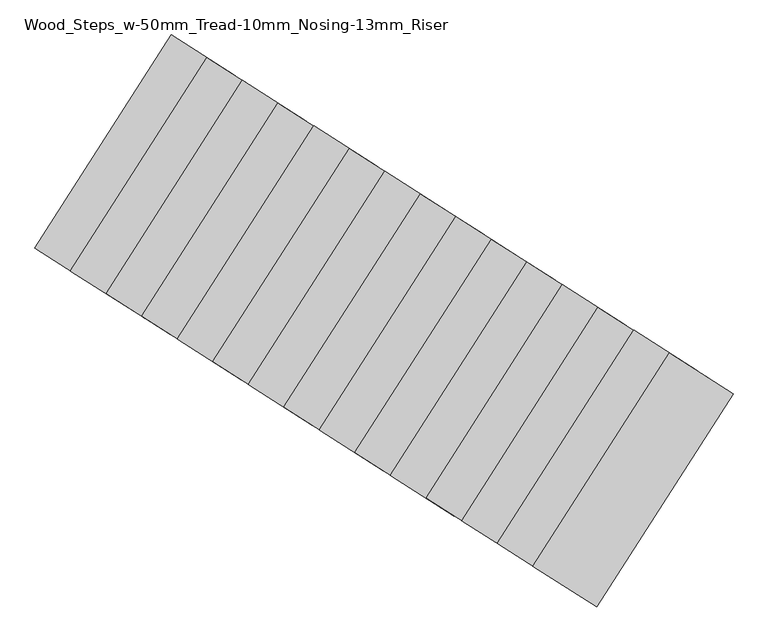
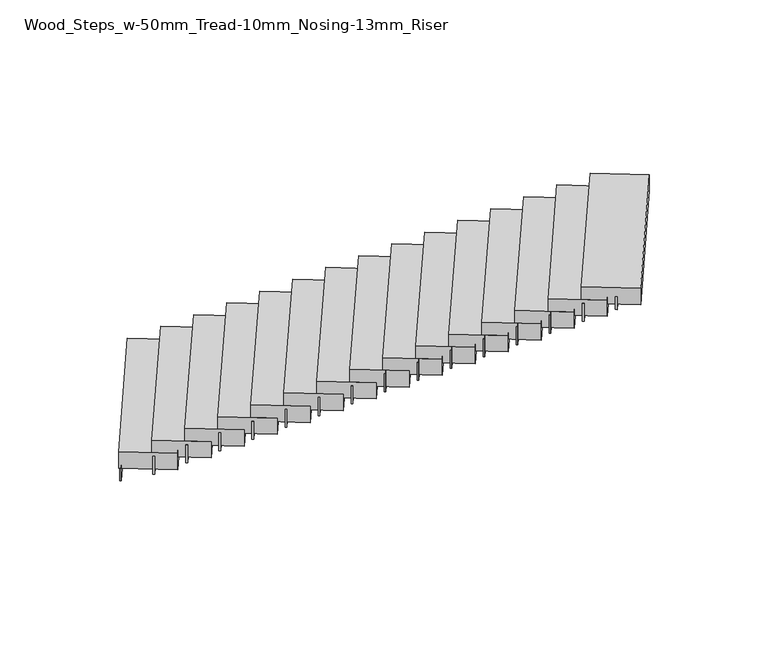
"""IFC4 building model written with IfcOpenShell, lengths in millimetres: stair flight geometry, Wood_Steps_w-50mm_Tread-10mm_Nosing-13mm_Riser."""

from ifc_helpers import new_model, si_unit, frame, origin, place, context, project, spatial, polyline, outline, extrude, source, transform, mapped, element, save


def wood_steps_w_50mm_tread_10mm_nosing_13mm_riser_624c92ec(model_context):
    return source(origin(), model_context, "Body", "SweptSolid", [
        extrude(outline(polyline([(12544.6973241, 9527.7276813), (12534.1659976, 9534.4612659), (13342.1961587, 10798.2204435), (13352.7274852, 10791.4868588), (12544.6973241, 9527.7276813)])), frame((0.0, 0.0, 11500.0), z_axis=(0.0, 0.0, 1.0), x_axis=(1.0, 0.0, 0.0)), (0.0, 0.0, 1.0), 116.6666667),
        extrude(outline(polyline([(12755.3238537, 9393.0559878), (12744.7925272, 9399.7895724), (13552.8226883, 10663.54875), (13563.3540148, 10656.8151653), (12755.3238537, 9393.0559878)])), frame((0.0, 0.0, 11566.6666667), z_axis=(0.0, 0.0, 1.0), x_axis=(1.0, 0.0, 0.0)), (0.0, 0.0, 1.0), 166.6666667),
        extrude(outline(polyline([(12965.9503833, 9258.3842942), (12955.4190568, 9265.1178789), (13763.4492179, 10528.8770565), (13773.9805444, 10522.1434718), (12965.9503833, 9258.3842942)])), frame((0.0, 0.0, 11683.3333333), z_axis=(0.0, 0.0, 1.0), x_axis=(1.0, 0.0, 0.0)), (0.0, 0.0, 1.0), 166.6666667),
        extrude(outline(polyline([(13176.5769129, 9123.7126007), (13166.0455864, 9130.4461854), (13974.0757475, 10394.2053629), (13984.6070739, 10387.4717783), (13176.5769129, 9123.7126007)])), frame((0.0, 0.0, 11800.0), z_axis=(0.0, 0.0, 1.0), x_axis=(1.0, 0.0, 0.0)), (0.0, 0.0, 1.0), 166.6666667),
        extrude(outline(polyline([(13387.2034425, 8989.0409072), (13376.672116, 8995.7744919), (14184.7022771, 10259.5336694), (14195.2336035, 10252.8000848), (13387.2034425, 8989.0409072)])), frame((0.0, 0.0, 11916.6666667), z_axis=(0.0, 0.0, 1.0), x_axis=(1.0, 0.0, 0.0)), (0.0, 0.0, 1.0), 166.6666667),
        extrude(outline(polyline([(13597.829972, 8854.3692137), (13587.2986456, 8861.1027984), (14395.3288066, 10124.8619759), (14405.8601331, 10118.1283912), (13597.829972, 8854.3692137)])), frame((0.0, 0.0, 12033.3333333), z_axis=(0.0, 0.0, 1.0), x_axis=(1.0, 0.0, 0.0)), (0.0, 0.0, 1.0), 166.6666667),
        extrude(outline(polyline([(13808.4565016, 8719.6975202), (13797.9251752, 8726.4311049), (14605.9553362, 9990.1902824), (14616.4866627, 9983.4566977), (13808.4565016, 8719.6975202)])), frame((0.0, 0.0, 12150.0), z_axis=(0.0, 0.0, 1.0), x_axis=(1.0, 0.0, 0.0)), (0.0, 0.0, 1.0), 166.6666667),
        extrude(outline(polyline([(14019.0830312, 8585.0258267), (14008.5517047, 8591.7594114), (14816.5818658, 9855.5185889), (14827.1131923, 9848.7850042), (14019.0830312, 8585.0258267)])), frame((0.0, 0.0, 12266.6666667), z_axis=(0.0, 0.0, 1.0), x_axis=(1.0, 0.0, 0.0)), (0.0, 0.0, 1.0), 166.6666667),
        extrude(outline(polyline([(14229.7095608, 8450.3541332), (14219.1782343, 8457.0877178), (15027.2083954, 9720.8468954), (15037.7397219, 9714.1133107), (14229.7095608, 8450.3541332)])), frame((0.0, 0.0, 12383.3333333), z_axis=(0.0, 0.0, 1.0), x_axis=(1.0, 0.0, 0.0)), (0.0, 0.0, 1.0), 166.6666667),
        extrude(outline(polyline([(14440.3360904, 8315.6824397), (14429.8047639, 8322.4160243), (15237.834925, 9586.1752019), (15248.3662515, 9579.4416172), (14440.3360904, 8315.6824397)])), frame((0.0, 0.0, 12500.0), z_axis=(0.0, 0.0, 1.0), x_axis=(1.0, 0.0, 0.0)), (0.0, 0.0, 1.0), 166.6666667),
        extrude(outline(polyline([(14650.96262, 8181.0107461), (14640.4312935, 8187.7443308), (15448.4614546, 9451.5035084), (15458.9927811, 9444.7699237), (14650.96262, 8181.0107461)])), frame((0.0, 0.0, 12616.6666667), z_axis=(0.0, 0.0, 1.0), x_axis=(1.0, 0.0, 0.0)), (0.0, 0.0, 1.0), 166.6666667),
        extrude(outline(polyline([(14861.5891496, 8046.3390526), (14851.0578231, 8053.0726373), (15659.0879842, 9316.8318148), (15669.6193107, 9310.0982302), (14861.5891496, 8046.3390526)])), frame((0.0, 0.0, 12733.3333333), z_axis=(0.0, 0.0, 1.0), x_axis=(1.0, 0.0, 0.0)), (0.0, 0.0, 1.0), 166.6666667),
        extrude(outline(polyline([(15072.2156792, 7911.6673591), (15061.6843527, 7918.4009438), (15869.7145138, 9182.1601213), (15880.2458402, 9175.4265367), (15072.2156792, 7911.6673591)])), frame((0.0, 0.0, 12850.0), z_axis=(0.0, 0.0, 1.0), x_axis=(1.0, 0.0, 0.0)), (0.0, 0.0, 1.0), 166.6666667),
        extrude(outline(polyline([(15282.8422088, 7776.9956656), (15272.3108823, 7783.7292503), (16080.3410434, 9047.4884278), (16090.8723698, 9040.7548431), (15282.8422088, 7776.9956656)])), frame((0.0, 0.0, 12966.6666667), z_axis=(0.0, 0.0, 1.0), x_axis=(1.0, 0.0, 0.0)), (0.0, 0.0, 1.0), 166.6666667),
        extrude(outline(polyline([(15493.4687383, 7642.3239721), (15482.9374119, 7649.0575568), (16290.9675729, 8912.8167343), (16301.4988994, 8906.0831496), (15493.4687383, 7642.3239721)])), frame((0.0, 0.0, 13083.3333333), z_axis=(0.0, 0.0, 1.0), x_axis=(1.0, 0.0, 0.0)), (0.0, 0.0, 1.0), 166.6666667),
        extrude(outline(polyline([(15704.0952679, 7507.6522786), (15693.5639415, 7514.3858633), (16501.5941025, 8778.1450408), (16512.125429, 8771.4114561), (15704.0952679, 7507.6522786)])), frame((0.0, 0.0, 13200.0), z_axis=(0.0, 0.0, 1.0), x_axis=(1.0, 0.0, 0.0)), (0.0, 0.0, 1.0), 116.6666667),
        extrude(outline(polyline([(12904.8686897, 9297.4390854), (12525.7409364, 9539.8481337), (13333.7710975, 10803.6073112), (13712.8988508, 10561.1982629), (12904.8686897, 9297.4390854)])), frame((0.0, 0.0, 11616.6666667), z_axis=(0.0, 0.0, 1.0), x_axis=(1.0, 0.0, 0.0)), (0.0, 0.0, 1.0), 150.0),
        extrude(outline(polyline([(13115.4952193, 9162.7673919), (12736.367466, 9405.1764402), (13544.3976271, 10668.9356177), (13923.5253804, 10426.5265694), (13115.4952193, 9162.7673919)])), frame((0.0, 0.0, 11733.3333333), z_axis=(0.0, 0.0, 1.0), x_axis=(1.0, 0.0, 0.0)), (0.0, 0.0, 1.0), 150.0),
        extrude(outline(polyline([(13326.1217489, 9028.0956983), (12946.9939956, 9270.5047467), (13755.0241567, 10534.2639242), (14134.15191, 10291.8548759), (13326.1217489, 9028.0956983)])), frame((0.0, 0.0, 11850.0), z_axis=(0.0, 0.0, 1.0), x_axis=(1.0, 0.0, 0.0)), (0.0, 0.0, 1.0), 150.0),
        extrude(outline(polyline([(13536.7482785, 8893.4240048), (13157.6205252, 9135.8330531), (13965.6506863, 10399.5922307), (14344.7784395, 10157.1831824), (13536.7482785, 8893.4240048)])), frame((0.0, 0.0, 11966.6666667), z_axis=(0.0, 0.0, 1.0), x_axis=(1.0, 0.0, 0.0)), (0.0, 0.0, 1.0), 150.0),
        extrude(outline(polyline([(13747.3748081, 8758.7523113), (13368.2470548, 9001.1613596), (14176.2772159, 10264.9205372), (14555.4049691, 10022.5114888), (13747.3748081, 8758.7523113)])), frame((0.0, 0.0, 12083.3333333), z_axis=(0.0, 0.0, 1.0), x_axis=(1.0, 0.0, 0.0)), (0.0, 0.0, 1.0), 150.0),
        extrude(outline(polyline([(13958.0013376, 8624.0806178), (13578.8735844, 8866.4896661), (14386.9037455, 10130.2488437), (14766.0314987, 9887.8397953), (13958.0013376, 8624.0806178)])), frame((0.0, 0.0, 12200.0), z_axis=(0.0, 0.0, 1.0), x_axis=(1.0, 0.0, 0.0)), (0.0, 0.0, 1.0), 150.0),
        extrude(outline(polyline([(14168.6278672, 8489.4089243), (13789.500114, 8731.8179726), (14597.530275, 9995.5771501), (14976.6580283, 9753.1681018), (14168.6278672, 8489.4089243)])), frame((0.0, 0.0, 12316.6666667), z_axis=(0.0, 0.0, 1.0), x_axis=(1.0, 0.0, 0.0)), (0.0, 0.0, 1.0), 150.0),
        extrude(outline(polyline([(14379.2543968, 8354.7372308), (14000.1266436, 8597.1462791), (14808.1568046, 9860.9054566), (15187.2845579, 9618.4964083), (14379.2543968, 8354.7372308)])), frame((0.0, 0.0, 12433.3333333), z_axis=(0.0, 0.0, 1.0), x_axis=(1.0, 0.0, 0.0)), (0.0, 0.0, 1.0), 150.0),
        extrude(outline(polyline([(14589.8809264, 8220.0655373), (14210.7531732, 8462.4745856), (15018.7833342, 9726.2337631), (15397.9110875, 9483.8247148), (14589.8809264, 8220.0655373)])), frame((0.0, 0.0, 12550.0), z_axis=(0.0, 0.0, 1.0), x_axis=(1.0, 0.0, 0.0)), (0.0, 0.0, 1.0), 150.0),
        extrude(outline(polyline([(14800.507456, 8085.3938438), (14421.3797027, 8327.8028921), (15229.4098638, 9591.5620696), (15608.5376171, 9349.1530213), (14800.507456, 8085.3938438)])), frame((0.0, 0.0, 12666.6666667), z_axis=(0.0, 0.0, 1.0), x_axis=(1.0, 0.0, 0.0)), (0.0, 0.0, 1.0), 150.0),
        extrude(outline(polyline([(15011.1339856, 7950.7221502), (14632.0062323, 8193.1311986), (15440.0363934, 9456.8903761), (15819.1641467, 9214.4813278), (15011.1339856, 7950.7221502)])), frame((0.0, 0.0, 12783.3333333), z_axis=(0.0, 0.0, 1.0), x_axis=(1.0, 0.0, 0.0)), (0.0, 0.0, 1.0), 150.0),
        extrude(outline(polyline([(15221.7605152, 7816.0504567), (14842.6327619, 8058.4595051), (15650.662923, 9322.2186826), (16029.7906763, 9079.8096343), (15221.7605152, 7816.0504567)])), frame((0.0, 0.0, 12900.0), z_axis=(0.0, 0.0, 1.0), x_axis=(1.0, 0.0, 0.0)), (0.0, 0.0, 1.0), 150.0),
        extrude(outline(polyline([(15432.3870448, 7681.3787632), (15053.2592915, 7923.7878115), (15861.2894526, 9187.5469891), (16240.4172058, 8945.1379407), (15432.3870448, 7681.3787632)])), frame((0.0, 0.0, 13016.6666667), z_axis=(0.0, 0.0, 1.0), x_axis=(1.0, 0.0, 0.0)), (0.0, 0.0, 1.0), 150.0),
        extrude(outline(polyline([(15643.0135744, 7546.7070697), (15263.8858211, 7789.116118), (16071.9159822, 9052.8752956), (16451.0437354, 8810.4662472), (15643.0135744, 7546.7070697)])), frame((0.0, 0.0, 13133.3333333), z_axis=(0.0, 0.0, 1.0), x_axis=(1.0, 0.0, 0.0)), (0.0, 0.0, 1.0), 150.0),
        extrude(outline(polyline([(15853.6401039, 7412.0353762), (15474.5123507, 7654.4444245), (16282.5425118, 8918.203602), (16661.670265, 8675.7945537), (15853.6401039, 7412.0353762)])), frame((0.0, 0.0, 13250.0), z_axis=(0.0, 0.0, 1.0), x_axis=(1.0, 0.0, 0.0)), (0.0, 0.0, 1.0), 150.0),
    ])


if __name__ == "__main__":
    model = new_model("IFC4")
    model_context = context("Model", 3, world=origin())
    ifc_project = project(units=[si_unit("LENGTHUNIT", "METRE", prefix="MILLI")], contexts=[model_context])
    site = spatial("IfcSite", under=ifc_project)
    building = spatial("IfcBuilding", under=site)
    placement = place(None, origin())
    wood_steps_w_50mm_tread_10mm_nosing_13mm_riser_shape = wood_steps_w_50mm_tread_10mm_nosing_13mm_riser_624c92ec(model_context)
    element("IfcStairFlight", 1, ObjectType="Wood_Steps_w-50mm_Tread-10mm_Nosing-13mm_Riser", at=placement, inside=building, context=model_context, shape_type="MappedRepresentation", body=[
        mapped(wood_steps_w_50mm_tread_10mm_nosing_13mm_riser_shape, transform((0.0, 0.0, 0.0), x_axis=(1.0, 0.0, 0.0), y_axis=(0.0, 1.0, 0.0), z_axis=(0.0, 0.0, 1.0))),
    ])
    save(model, "model.ifc")
